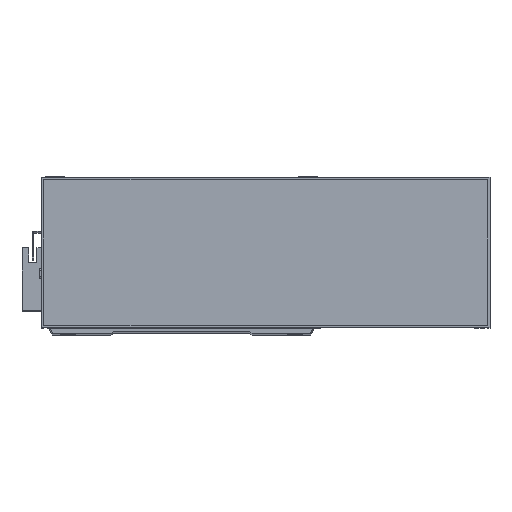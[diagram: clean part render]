
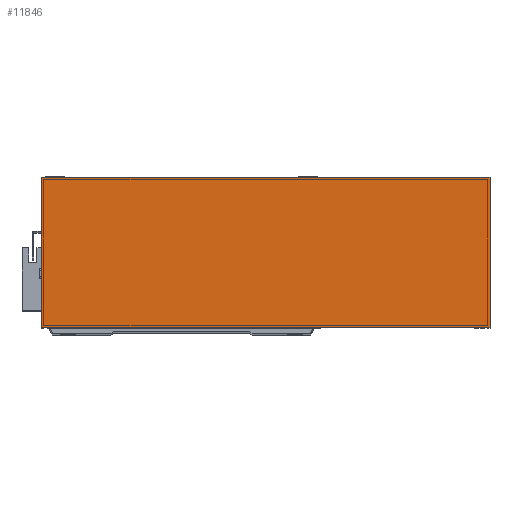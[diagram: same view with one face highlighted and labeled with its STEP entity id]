
A CAD part, top view. The second image highlights one B-rep face of the part: STEP entity #11846.
In plain terms, the highlighted planar face has unit normal (0, 0, 1).
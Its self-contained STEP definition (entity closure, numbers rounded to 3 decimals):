
#1050 = VERTEX_POINT ( 'NONE', #21712 ) ;
#1489 = DIRECTION ( 'NONE',  ( -1., 0., 0. ) ) ;
#2737 = VERTEX_POINT ( 'NONE', #7884 ) ;
#4277 = CARTESIAN_POINT ( 'NONE',  ( 277., 0., 50. ) ) ;
#5584 = DIRECTION ( 'NONE',  ( 0., -1., 0. ) ) ;
#6643 = PLANE ( 'NONE',  #25642 ) ;
#7884 = CARTESIAN_POINT ( 'NONE',  ( 277., 93., 50. ) ) ;
#8669 = EDGE_CURVE ( 'NONE', #1050, #18813, #17004, .T. ) ;
#8856 = DIRECTION ( 'NONE',  ( -1., 0., 0. ) ) ;
#9085 = VECTOR ( 'NONE', #5584, 1000. ) ;
#9526 = VECTOR ( 'NONE', #1489, 1000. ) ;
#10314 = ORIENTED_EDGE ( 'NONE', *, *, #11593, .T. ) ;
#10404 = ORIENTED_EDGE ( 'NONE', *, *, #13709, .T. ) ;
#10458 = LINE ( 'NONE', #18517, #9085 ) ;
#11593 = EDGE_CURVE ( 'NONE', #2737, #18730, #27314, .T. ) ;
#11846 = ADVANCED_FACE ( 'NONE', ( #24949 ), #6643, .F. ) ;
#11997 = VECTOR ( 'NONE', #20550, 1000. ) ;
#12791 = LINE ( 'NONE', #4277, #17101 ) ;
#13507 = EDGE_LOOP ( 'NONE', ( #23785, #13964, #10404, #10314 ) ) ;
#13709 = EDGE_CURVE ( 'NONE', #18813, #2737, #12791, .T. ) ;
#13964 = ORIENTED_EDGE ( 'NONE', *, *, #8669, .T. ) ;
#14504 = CARTESIAN_POINT ( 'NONE',  ( 0., 93., 50. ) ) ;
#17004 = LINE ( 'NONE', #24908, #11997 ) ;
#17101 = VECTOR ( 'NONE', #17237, 1000. ) ;
#17148 = EDGE_CURVE ( 'NONE', #18730, #1050, #10458, .T. ) ;
#17237 = DIRECTION ( 'NONE',  ( 0., 1., 0. ) ) ;
#18517 = CARTESIAN_POINT ( 'NONE',  ( 0., 0., 50. ) ) ;
#18730 = VERTEX_POINT ( 'NONE', #25856 ) ;
#18813 = VERTEX_POINT ( 'NONE', #21771 ) ;
#20550 = DIRECTION ( 'NONE',  ( 1., 0., 0. ) ) ;
#21711 = DIRECTION ( 'NONE',  ( 0., 0., -1. ) ) ;
#21712 = CARTESIAN_POINT ( 'NONE',  ( 0., 0., 50. ) ) ;
#21771 = CARTESIAN_POINT ( 'NONE',  ( 277., 0., 50. ) ) ;
#23785 = ORIENTED_EDGE ( 'NONE', *, *, #17148, .T. ) ;
#24908 = CARTESIAN_POINT ( 'NONE',  ( 0., 0., 50. ) ) ;
#24949 = FACE_OUTER_BOUND ( 'NONE', #13507, .T. ) ;
#25642 = AXIS2_PLACEMENT_3D ( 'NONE', #25971, #21711, #8856 ) ;
#25856 = CARTESIAN_POINT ( 'NONE',  ( 0., 93., 50. ) ) ;
#25971 = CARTESIAN_POINT ( 'NONE',  ( 0., 0., 50. ) ) ;
#27314 = LINE ( 'NONE', #14504, #9526 ) ;
